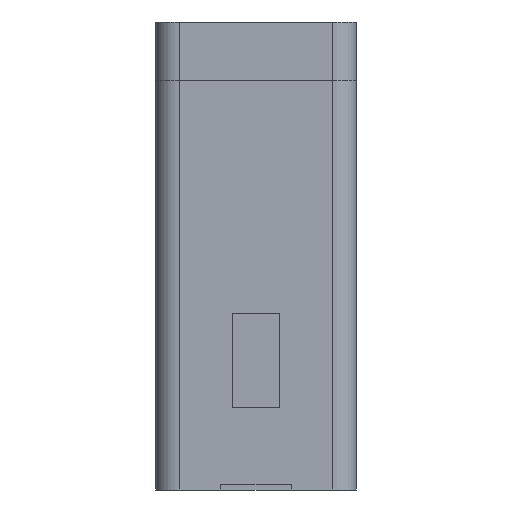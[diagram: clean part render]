
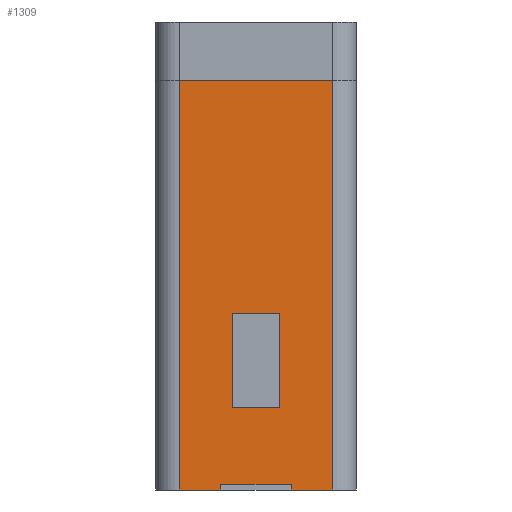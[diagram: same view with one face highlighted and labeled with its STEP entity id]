
A CAD part, front view. The second image highlights one B-rep face of the part: STEP entity #1309.
In plain terms, the highlighted planar face has unit normal (0, -1, 0).
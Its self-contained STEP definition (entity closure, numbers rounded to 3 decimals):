
#42=CARTESIAN_POINT('',(-125.,208.,346.657));
#43=VERTEX_POINT('',#42);
#51=CARTESIAN_POINT('',(5.,208.,346.657));
#52=VERTEX_POINT('',#51);
#53=CARTESIAN_POINT('',(5.,208.,346.657));
#54=DIRECTION('',(-1.,-0.,0.));
#55=VECTOR('',#54,130.);
#56=LINE('',#53,#55);
#57=EDGE_CURVE('',#52,#43,#56,.T.);
#827=CARTESIAN_POINT('',(-80.,208.,150.));
#828=VERTEX_POINT('',#827);
#835=CARTESIAN_POINT('',(-80.,208.,70.));
#836=VERTEX_POINT('',#835);
#837=CARTESIAN_POINT('',(-80.,208.,150.));
#838=DIRECTION('',(0.,0.,-1.));
#839=VECTOR('',#838,80.);
#840=LINE('',#837,#839);
#841=EDGE_CURVE('',#828,#836,#840,.T.);
#858=CARTESIAN_POINT('',(-40.,208.,70.));
#859=VERTEX_POINT('',#858);
#866=CARTESIAN_POINT('',(-40.,208.,150.));
#867=VERTEX_POINT('',#866);
#868=CARTESIAN_POINT('',(-40.,208.,70.));
#869=DIRECTION('',(0.,0.,1.));
#870=VECTOR('',#869,80.);
#871=LINE('',#868,#870);
#872=EDGE_CURVE('',#859,#867,#871,.T.);
#900=CARTESIAN_POINT('',(-40.,208.,150.));
#901=DIRECTION('',(-1.,-0.,0.));
#902=VECTOR('',#901,40.);
#903=LINE('',#900,#902);
#904=EDGE_CURVE('',#867,#828,#903,.T.);
#917=CARTESIAN_POINT('',(-80.,208.,70.));
#918=DIRECTION('',(1.,0.,0.));
#919=VECTOR('',#918,40.);
#920=LINE('',#917,#919);
#921=EDGE_CURVE('',#836,#859,#920,.T.);
#1241=CARTESIAN_POINT('',(-60.,208.,310.));
#1242=DIRECTION('',(0.,-1.,0.));
#1243=DIRECTION('',(1.,0.,0.));
#1244=AXIS2_PLACEMENT_3D('',#1241,#1242,#1243);
#1245=PLANE('',#1244);
#1246=ORIENTED_EDGE('',*,*,#921,.F.);
#1247=ORIENTED_EDGE('',*,*,#841,.F.);
#1248=ORIENTED_EDGE('',*,*,#904,.F.);
#1249=ORIENTED_EDGE('',*,*,#872,.F.);
#1250=EDGE_LOOP('',(#1246,#1247,#1248,#1249));
#1251=FACE_BOUND('',#1250,.T.);
#1252=ORIENTED_EDGE('',*,*,#57,.T.);
#1253=CARTESIAN_POINT('',(-125.,208.,0.));
#1254=VERTEX_POINT('',#1253);
#1255=CARTESIAN_POINT('',(-125.,208.,346.657));
#1256=DIRECTION('',(0.,0.,-1.));
#1257=VECTOR('',#1256,346.657);
#1258=LINE('',#1255,#1257);
#1259=EDGE_CURVE('',#43,#1254,#1258,.T.);
#1260=ORIENTED_EDGE('',*,*,#1259,.T.);
#1261=CARTESIAN_POINT('',(-90.,208.,0.));
#1262=VERTEX_POINT('',#1261);
#1263=CARTESIAN_POINT('',(-90.,208.,0.));
#1264=DIRECTION('',(-1.,-0.,0.));
#1265=VECTOR('',#1264,35.);
#1266=LINE('',#1263,#1265);
#1267=EDGE_CURVE('',#1262,#1254,#1266,.T.);
#1268=ORIENTED_EDGE('',*,*,#1267,.F.);
#1269=CARTESIAN_POINT('',(-90.,208.,5.));
#1270=VERTEX_POINT('',#1269);
#1271=CARTESIAN_POINT('',(-90.,208.,0.));
#1272=DIRECTION('',(0.,0.,1.));
#1273=VECTOR('',#1272,5.);
#1274=LINE('',#1271,#1273);
#1275=EDGE_CURVE('',#1262,#1270,#1274,.T.);
#1276=ORIENTED_EDGE('',*,*,#1275,.T.);
#1277=CARTESIAN_POINT('',(-30.,208.,5.));
#1278=VERTEX_POINT('',#1277);
#1279=CARTESIAN_POINT('',(-90.,208.,5.));
#1280=DIRECTION('',(1.,0.,0.));
#1281=VECTOR('',#1280,60.);
#1282=LINE('',#1279,#1281);
#1283=EDGE_CURVE('',#1270,#1278,#1282,.T.);
#1284=ORIENTED_EDGE('',*,*,#1283,.T.);
#1285=CARTESIAN_POINT('',(-30.,208.,0.));
#1286=VERTEX_POINT('',#1285);
#1287=CARTESIAN_POINT('',(-30.,208.,5.));
#1288=DIRECTION('',(0.,0.,-1.));
#1289=VECTOR('',#1288,5.);
#1290=LINE('',#1287,#1289);
#1291=EDGE_CURVE('',#1278,#1286,#1290,.T.);
#1292=ORIENTED_EDGE('',*,*,#1291,.T.);
#1293=CARTESIAN_POINT('',(5.,208.,0.));
#1294=VERTEX_POINT('',#1293);
#1295=CARTESIAN_POINT('',(5.,208.,0.));
#1296=DIRECTION('',(-1.,-0.,0.));
#1297=VECTOR('',#1296,35.);
#1298=LINE('',#1295,#1297);
#1299=EDGE_CURVE('',#1294,#1286,#1298,.T.);
#1300=ORIENTED_EDGE('',*,*,#1299,.F.);
#1301=CARTESIAN_POINT('',(5.,208.,0.));
#1302=DIRECTION('',(-0.,-0.,1.));
#1303=VECTOR('',#1302,346.657);
#1304=LINE('',#1301,#1303);
#1305=EDGE_CURVE('',#1294,#52,#1304,.T.);
#1306=ORIENTED_EDGE('',*,*,#1305,.T.);
#1307=EDGE_LOOP('',(#1252,#1260,#1268,#1276,#1284,#1292,#1300,#1306));
#1308=FACE_BOUND('',#1307,.T.);
#1309=ADVANCED_FACE('',(#1251,#1308),#1245,.T.);
